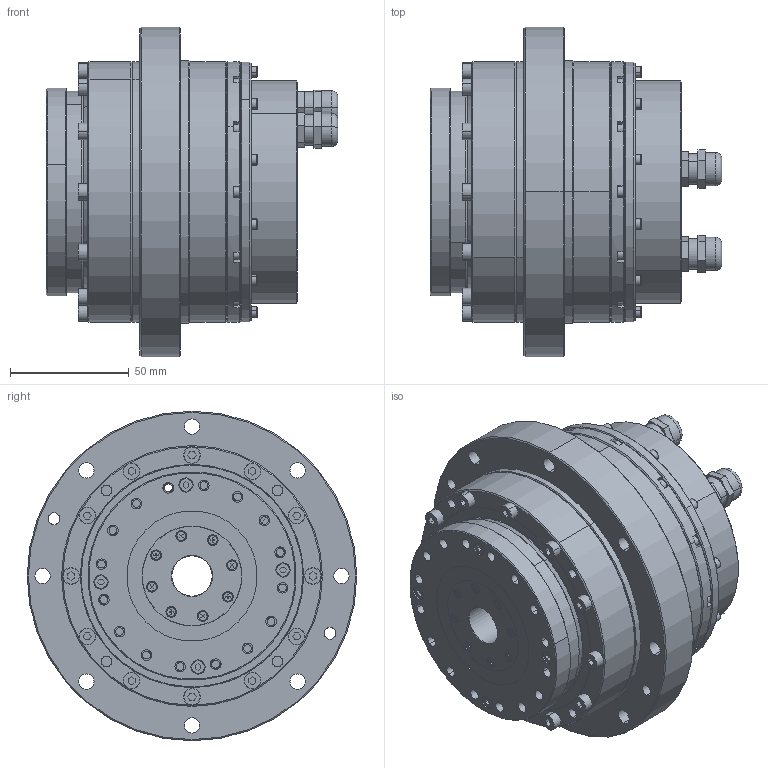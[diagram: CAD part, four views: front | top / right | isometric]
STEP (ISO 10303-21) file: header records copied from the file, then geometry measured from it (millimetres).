
FILE_DESCRIPTION (( 'STEP AP203' ), '1' );
FILE_NAME ('KAH-25CM3NB 总装配图（带法兰端面出线）.STEP', '2020-09-23T09:36:16', ( '' ), ( '' ), 'SwSTEP 2.0', 'SolidWorks 2016', '' );
FILE_SCHEMA (( 'CONFIG_CONTROL_DESIGN' ));
Length unit declared in the file: millimetre
Products named in the file (1): KAH-25CM3NB 总装配图（带法兰端面出线）
Bounding box: 122.9 x 139 x 139 mm (x, y, z)
Volume: 392022.8 mm3; surface area: 210510 mm2
Topology: 65 solids, 65 shells, 2261 faces, 5386 edges, 3339 vertices
Faces by surface type: cylinder 818, plane 704, cone 376, torus 243, sphere 112, bspline 8
Entity records: 69015 total; most frequent: CARTESIAN_POINT 14733, DIRECTION 12096, ORIENTED_EDGE 10644, EDGE_CURVE 5322, AXIS2_PLACEMENT_3D 4914, VERTEX_POINT 3339, EDGE_LOOP 2829, CIRCLE 2660
